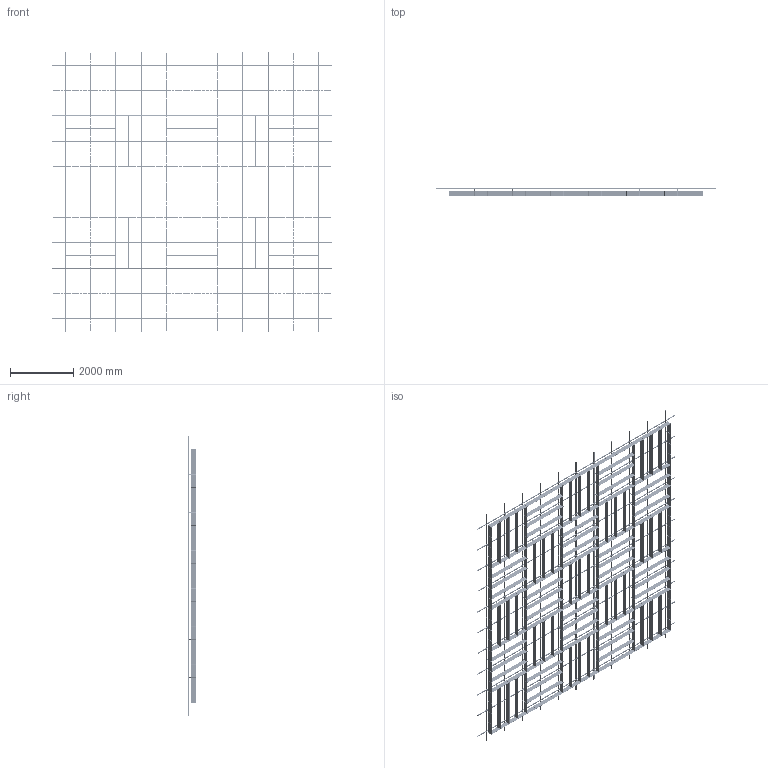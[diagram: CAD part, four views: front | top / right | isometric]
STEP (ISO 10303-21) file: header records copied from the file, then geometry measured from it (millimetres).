
FILE_DESCRIPTION (( 'STEP AP214' ), '1' );
FILE_NAME ('OPT_Var22.STEP', '2024-04-26T08:50:18', ( '' ), ( '' ), 'SwSTEP 2.0', 'SolidWorks 2020', '' );
FILE_SCHEMA (( 'AUTOMOTIVE_DESIGN' ));
Length unit declared in the file: millimetre
Products named in the file (5): OPT_Var22; Varp22; Ñèñòåìà â çîíå 8000õ8000; SS.SEMA.2400 - Ñèìà-ïðîôèëü; SS.SEMA.2400 - Ñèìà-ïðîôèëü — îáðåçàí 1600
Assembly tree (90 placements, depth 3):
  OPT_Var22
    Ñèñòåìà â çîíå 8000õ8000
      SS.SEMA.2400 - Ñèìà-ïðîôèëü  x66
      SS.SEMA.2400 - Ñèìà-ïðîôèëü — îáðåçàí 1600  x22
    Varp22
Bounding box: 8800 x 253 x 8800 mm (x, y, z)
Volume: 266562048.2 mm3; surface area: 101576741.4 mm2
Topology: 1267 solids, 1267 shells, 23106 faces, 60308 edges, 39736 vertices
Faces by surface type: cylinder 13586, plane 9520
Entity records: 186232 total; most frequent: CARTESIAN_POINT 58072, ORIENTED_EDGE 27464, DIRECTION 15566, EDGE_CURVE 13732, B_SPLINE_CURVE_WITH_KNOTS 9288, VERTEX_POINT 9144, AXIS2_PLACEMENT_3D 7534, EDGE_LOOP 7112
